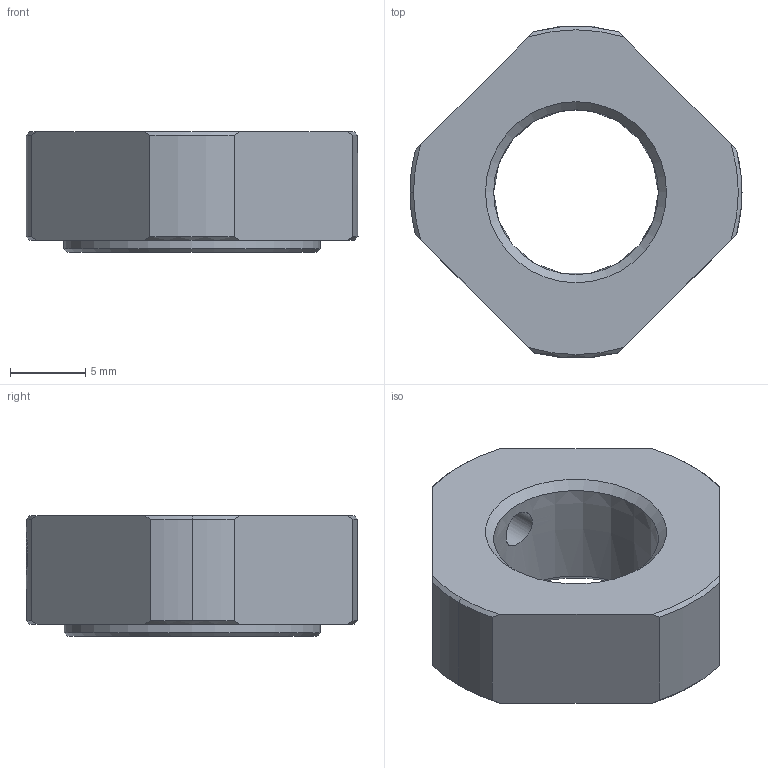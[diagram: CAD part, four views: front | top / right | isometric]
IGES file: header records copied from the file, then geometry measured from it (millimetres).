
Start section: Data from Parasolid IGES Translator 26.0.171, Copyright(c) 2006 Siemens PLM Software. All Rights Reserved.
Global section: file name: RN 12.igs; native system: By Siemens PLM Incorporated; preprocessor: XPlus GENERIC/IGES 26.0.171; author: Noname; organization: Noname; date: 20250611.074129; units: millimetre
Bounding box: 22 x 21.96 x 8 mm (x, y, z)
Surface area: 1270.1 mm2 (no closed solid volume)
Topology: 0 solids, 0 shells, 39 faces, 202 edges, 198 vertices
Faces by surface type: revolution 23, extrusion 16
